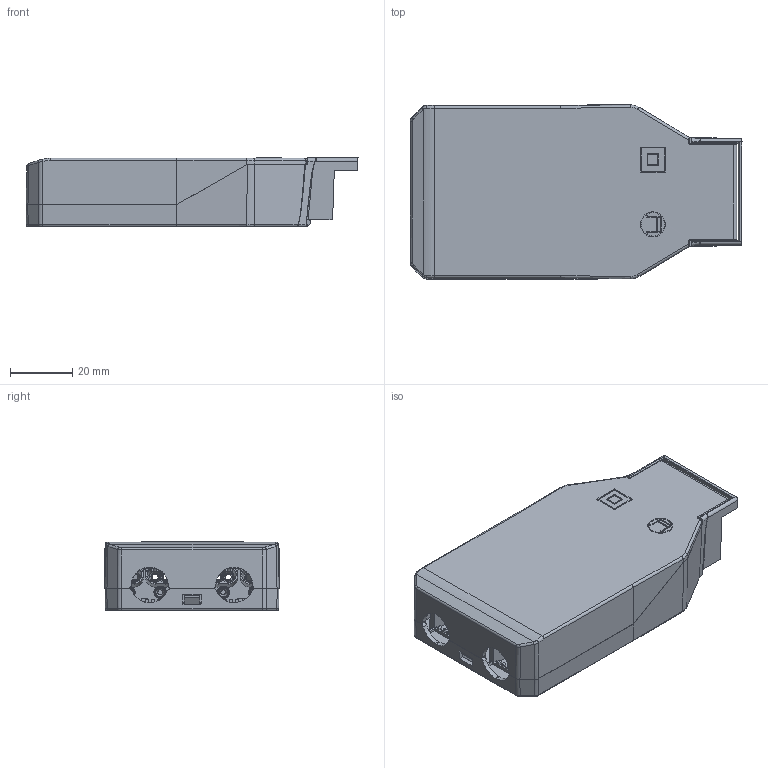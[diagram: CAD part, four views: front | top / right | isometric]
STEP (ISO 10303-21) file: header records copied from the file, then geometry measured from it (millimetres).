
FILE_DESCRIPTION(/* description */ (''),/* implementation_level */ '2;1');
FILE_NAME(/* name */ '0808-单独大侧盖-20260520.stp',/* time_stamp */ '2026-05-20T16:17:23+08:00',/* author */ (''),/* organization */ (''),/* preprocessor_version */ 'ST-DEVELOPER v16.7',/* originating_system */ 'SIEMENS PLM Software NX 12.0',/* authorisation */ '');
FILE_SCHEMA (('AUTOMOTIVE_DESIGN { 1 0 10303 214 3 1 1 1 }'));
Products named in the file (1): Admi0990ED23b9c7
Bounding box: 106.84 x 56 x 22.1 mm (x, y, z)
Volume: 30881.5 mm3; surface area: 51426.5 mm2
Topology: 5 solids, 6 shells, 3444 faces, 10139 edges, 6680 vertices
Faces by surface type: plane 2182, cylinder 709, bspline 309, cone 104, torus 91, extrusion 41, sphere 8
Entity records: 139258 total; most frequent: CARTESIAN_POINT 50140, ORIENTED_EDGE 20223, DIRECTION 16420, EDGE_CURVE 10129, VECTOR 6742, LINE 6701, VERTEX_POINT 6680, AXIS2_PLACEMENT_3D 4839
